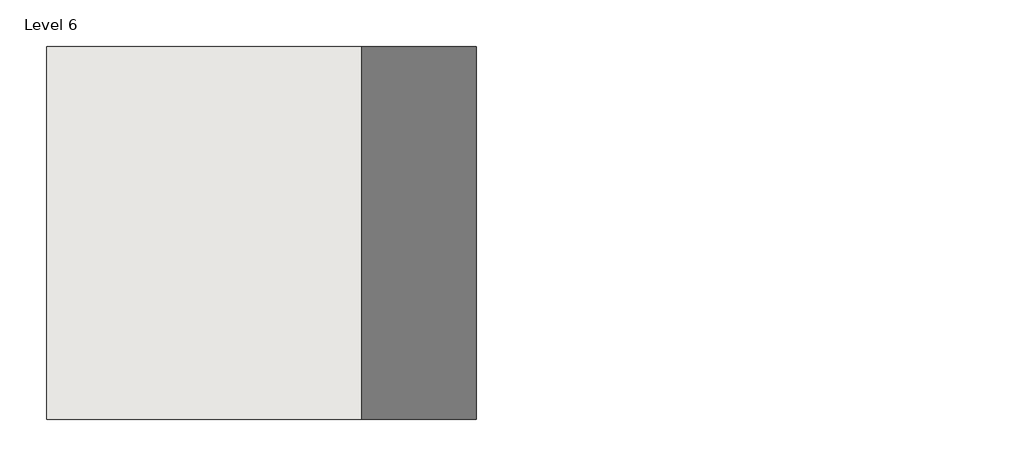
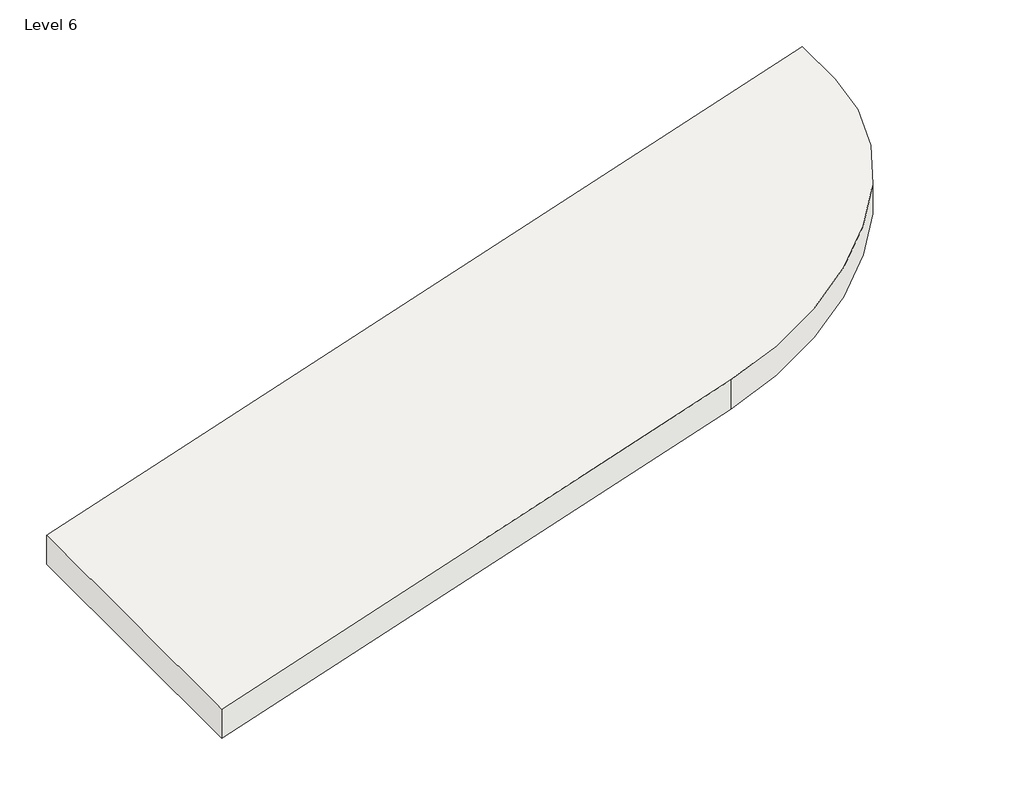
# One storey: 1 roof.
"""IFC4 building model written with IfcOpenShell, lengths in millimetres."""

from ifc_helpers import new_model, si_unit, frame, origin, place, context, project, spatial, ellipse_curve, element, save
from ifc_brep_helpers import plane_surface, cylinder_surface, advanced_brep

model = new_model("IFC4")

# Units and contexts
model_context = context("Model", 3, world=origin())
ifc_project = project(units=[si_unit("LENGTHUNIT", "METRE", prefix="MILLI")], contexts=[model_context])

# Site, building, storey
site = spatial("IfcSite", under=ifc_project)
building = spatial("IfcBuilding", under=site)
storey = spatial("IfcBuildingStorey", under=building, Name="Level 6", Elevation=14630.4)

# Roof
placement = place(None, origin())
element("IfcRoof", 1, ObjectType="Generic - 12\"", at=placement, inside=storey, context=model_context, shape_type="AdvancedBrep", body=[
    advanced_brep(
    [(-112730.1316949, 34460.9831165, 17561.567939), (-120585.173281, 34460.9831165, 14943.2207436), (-120585.173281, 31311.3831165, 14943.2207436), (-115295.5316949, 31311.3831165, 16706.4346056), (-112730.1316949, 33876.7831165, 17561.567939), (-112730.1316949, 34460.9831165, 17240.2805287), (-112730.1316949, 33876.7831165, 17240.2805287), (-115295.5316949, 31311.3831165, 16385.1471954), (-120585.173281, 31311.3831165, 14621.9333333), (-120585.173281, 34460.9831165, 14621.9333333)],
    [
        (0, 1),
        (1, 2),
        (2, 3),
        (3, 4, ellipse_curve(frame((-115295.5316949, 33876.7831165, 16706.4346056), z_axis=(-0.316227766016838, 0.0, 0.9486832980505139), x_axis=(0.9486832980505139, 0.0, 0.31622776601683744)), 2704.1690365, 2565.4)),
        (4, 0),
        (5, 6),
        (6, 7, ellipse_curve(frame((-115295.5316949, 33876.7831165, 16385.1471954), z_axis=(0.316227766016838, 0.0, -0.9486832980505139), x_axis=(0.9486832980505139, 0.0, 0.31622776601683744)), 2704.1690365, 2565.4)),
        (7, 8),
        (8, 9),
        (9, 5),
        (0, 5),
        (9, 1),
        (8, 2),
        (7, 3),
        (6, 4),
    ],
    [
        plane_surface(frame((-120681.559504, 31311.3831165, 14911.0920026), z_axis=(-0.316227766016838, 0.0, 0.9486832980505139), x_axis=(0.0, -1.0, 0.0))),
        plane_surface(frame((-120585.173281, 31311.3831165, 14621.9333333), z_axis=(0.316227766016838, 0.0, -0.9486832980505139), x_axis=(0.0, -1.0, 0.0))),
        plane_surface(frame((-112730.1316949, 34460.9831165, 17561.567939), z_axis=(0.0, 1.0, 0.0), x_axis=(0.0, 0.0, -1.0))),
        plane_surface(frame((-120585.173281, 34460.9831165, 14943.2207436), z_axis=(-1.0, 0.0, 0.0), x_axis=(0.0, 0.0, -1.0))),
        plane_surface(frame((-120585.173281, 31311.3831165, 14943.2207436), z_axis=(0.0, -1.0, 0.0), x_axis=(0.0, 0.0, -1.0))),
        cylinder_surface(frame((-115295.5316949, 33876.7831165, 14630.4), z_axis=(0.0, 0.0, 1.0), x_axis=(1.0, 0.0, 0.0)), 2565.4),
        plane_surface(frame((-112730.1316949, 33876.7831165, 17561.567939), z_axis=(1.0, 0.0, 0.0), x_axis=(0.0, 0.0, -1.0))),
    ],
    [
        (0, [[1, 2, 3, 4, 5]]),
        (1, [[6, 7, 8, 9, 10]]),
        (2, [[-1, 11, -10, 12]]),
        (3, [[-2, -12, -9, 13]]),
        (4, [[-3, -13, -8, 14]]),
        (5, [[-4, -14, -7, 15]]),
        (6, [[-5, -15, -6, -11]]),
    ],
),
])

save(model, "model.ifc")
